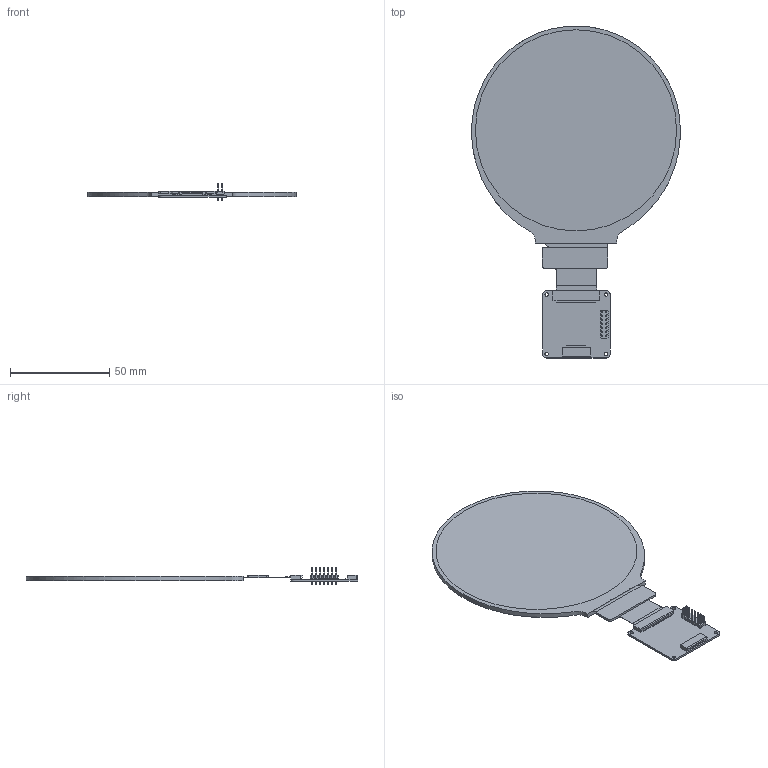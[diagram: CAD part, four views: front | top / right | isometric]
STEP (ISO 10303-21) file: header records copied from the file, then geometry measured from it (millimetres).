
FILE_DESCRIPTION((''),'2;1');
FILE_NAME('TS040HDC02NP-B1613A-V00-241217','2024-12-17T16:25:59',('Shaozi'),(''),'CREO PARAMETRIC BY PTC INC, 2024063','CREO PARAMETRIC BY PTC INC, 2024063','');
FILE_SCHEMA(('AUTOMOTIVE_DESIGN { 1 0 10303 214 1 1 1 1 }'));
Length unit declared in the file: millimetre
Products named in the file (1): TS040HDC02NP-B1613A-V00-241217
Bounding box: 105.3 x 167.51 x 8.8 mm (x, y, z)
Surface area: 23889.5 mm2 (no closed solid volume)
Topology: 0 solids, 6 shells, 340 faces, 976 edges, 656 vertices
Faces by surface type: plane 319, cylinder 18, extrusion 3
Entity records: 13229 total; most frequent: CARTESIAN_POINT 2215, ORIENTED_EDGE 1836, DIRECTION 1691, EDGE_CURVE 976, VECTOR 929, LINE 926, VERTEX_POINT 656, AXIS2_PLACEMENT_3D 381
